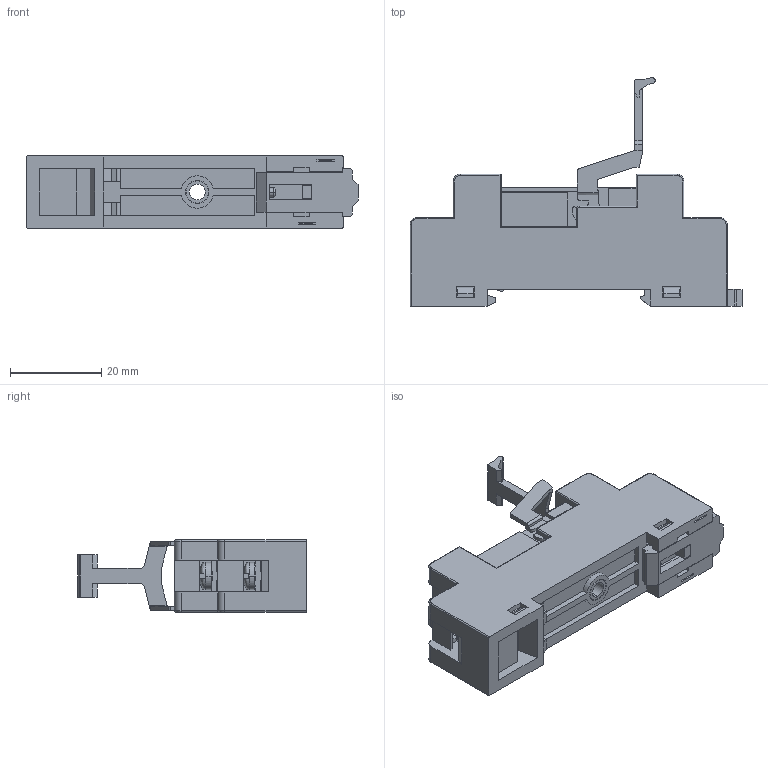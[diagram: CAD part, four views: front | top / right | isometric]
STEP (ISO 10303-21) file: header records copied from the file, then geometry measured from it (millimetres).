
FILE_DESCRIPTION (( 'STEP AP203' ), '1' );
FILE_NAME ('SRT05-E 俋倛.STEP', '2023-01-31T07:15:00', ( '' ), ( '' ), 'SwSTEP 2.0', 'SolidWorks 2018', '' );
FILE_SCHEMA (( 'CONFIG_CONTROL_DESIGN' ));
Length unit declared in the file: millimetre
Products named in the file (1): SRT05-E 俋倛
Bounding box: 72.85 x 50.2 x 15.8 mm (x, y, z)
Volume: 21713.6 mm3; surface area: 11850.6 mm2
Topology: 2 solids, 7 shells, 1202 faces, 3274 edges, 2106 vertices
Faces by surface type: plane 824, cylinder 234, cone 82, torus 50, bspline 12
Entity records: 40815 total; most frequent: CARTESIAN_POINT 10902, ORIENTED_EDGE 6528, DIRECTION 5791, EDGE_CURVE 3264, VECTOR 2229, LINE 2229, VERTEX_POINT 2106, AXIS2_PLACEMENT_3D 1781
